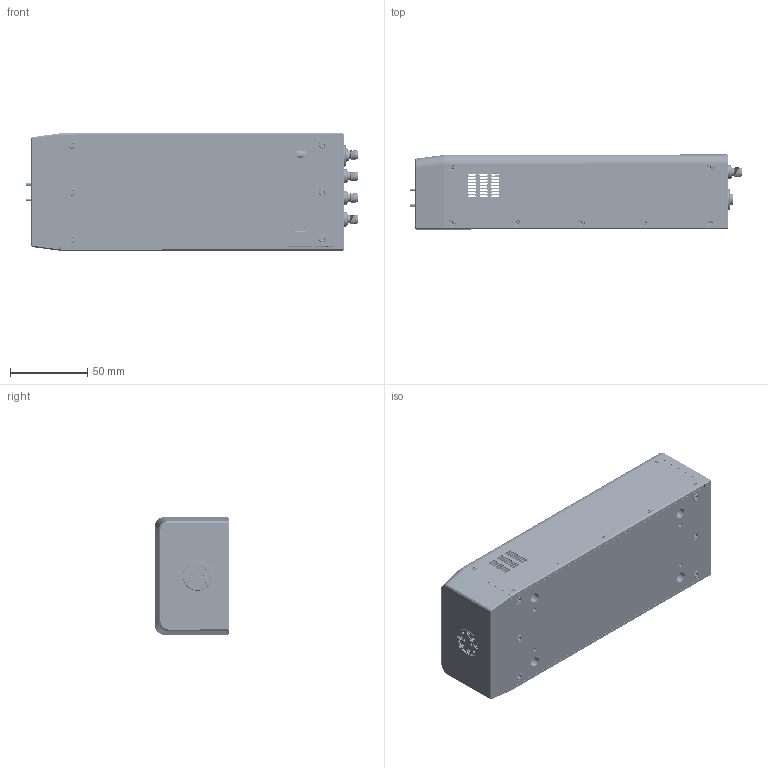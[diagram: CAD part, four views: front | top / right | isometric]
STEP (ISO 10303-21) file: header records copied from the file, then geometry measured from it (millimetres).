
FILE_DESCRIPTION (( 'STEP AP214' ), '1' );
FILE_NAME ('TO-S03-A-4, DF, Mountable.STEP', '2025-09-03T17:58:27', ( '' ), ( '' ), 'SwSTEP 2.0', 'SolidWorks 2021', '' );
FILE_SCHEMA (( 'AUTOMOTIVE_DESIGN' ));
Length unit declared in the file: inch
Products named in the file (1): TO-S03-A-4, DF, Mountable
Bounding box: 215.5 x 48.66 x 76.35 mm (x, y, z)
Volume: 230703.9 mm3; surface area: 151412.2 mm2
Topology: 84 solids, 90 shells, 5259 faces, 13919 edges, 8881 vertices
Faces by surface type: cylinder 2434, plane 1518, cone 816, bspline 454, sphere 25, torus 12
Entity records: 355621 total; most frequent: CARTESIAN_POINT 168955, ORIENTED_EDGE 27520, DIRECTION 21192, EDGE_CURVE 13760, VERTEX_POINT 8875, AXIS2_PLACEMENT_3D 7789, EDGE_LOOP 5767, VECTOR 5614
